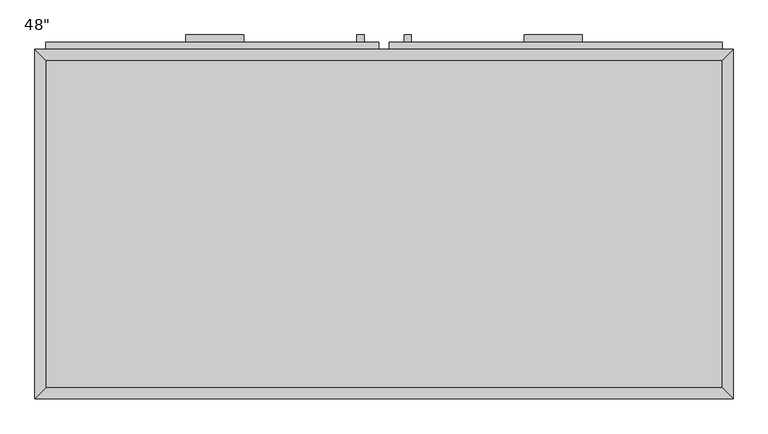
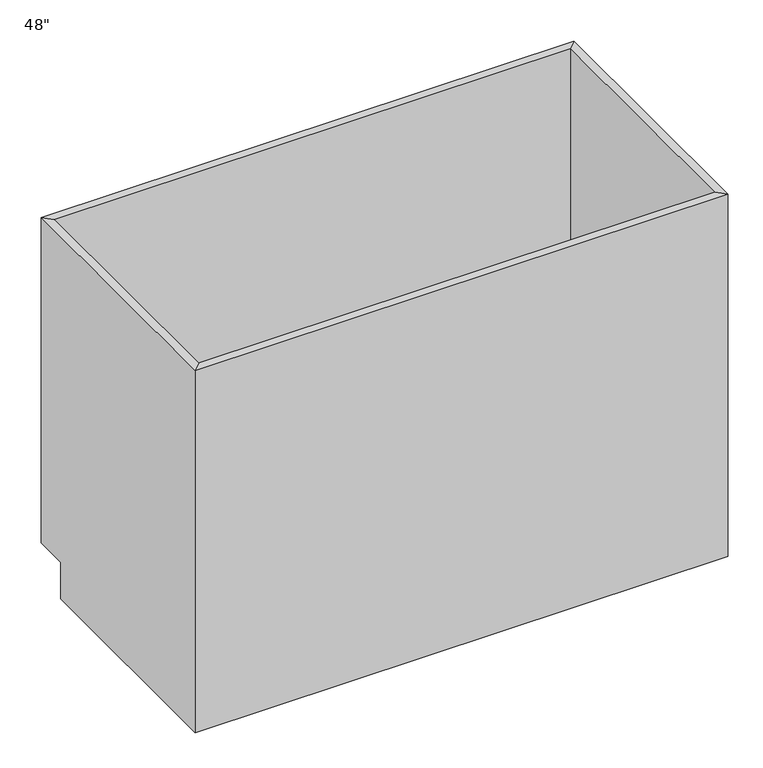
"""IFC4 building model written with IfcOpenShell, lengths in millimetres: furniture geometry."""

from ifc_helpers import new_model, si_unit, frame, origin, place, context, project, spatial, polyline, outline, extrude, faceted_brep, source, transform, mapped, element, save


def furniture_3b04147a(model_context):
    return source(origin(), model_context, "Body", "SolidModel", [
        faceted_brep([(609.2877049, 590.55, 876.3), (-571.8122951, 590.55, 876.3), (-571.8122951, 590.55, 88.9), (609.2877049, 590.55, 88.9), (628.3377049, 609.6, 876.3), (-590.8622951, 609.6, 876.3), (628.3377049, 609.6, 88.9), (-590.8622951, 609.6, 88.9), (-571.8122951, 19.05, 876.3), (-571.8122951, 19.05, 88.9), (-571.8122951, 533.4, 88.9), (-590.8622951, 0.0, 876.3), (-590.8622951, 533.4, 88.9), (-590.8622951, 533.4, 0.0), (-590.8622951, 0.0, 0.0), (609.2877049, 19.05, 876.3), (609.2877049, 19.05, 88.9), (628.3377049, 0.0, 876.3), (628.3377049, 0.0, 0.0), (609.2877049, 533.4, 88.9), (628.3377049, 533.4, 0.0), (628.3377049, 533.4, 88.9)], [[[0, 1, 2, 3]], [[0, 4, 5, 1]], [[4, 6, 7, 5]], [[2, 7, 6, 3]], [[1, 8, 9, 10, 2]], [[5, 11, 8, 1]], [[7, 12, 13, 14, 11, 5]], [[2, 10, 12, 7]], [[8, 15, 16, 9]], [[11, 17, 15, 8]], [[14, 18, 17, 11]], [[3, 19, 16, 15, 0]], [[0, 15, 17, 4]], [[4, 17, 18, 20, 21, 6]], [[6, 21, 19, 3]], [[10, 9, 16, 19]], [[18, 14, 13, 20]], [[13, 12, 10, 19, 21, 20]]]),
        extrude(outline(polyline([(-225.7372951, 635.0), (-225.7372951, 622.3), (-327.3372951, 622.3), (-327.3372951, 635.0), (-225.7372951, 635.0)])), frame((0.0, 0.0, 819.15), z_axis=(0.0, 0.0, 1.0), x_axis=(1.0, 0.0, 0.0)), (0.0, 0.0, 1.0), 12.7),
        extrude(outline(polyline([(364.8127049, 635.0), (364.8127049, 622.3), (263.2127049, 622.3), (263.2127049, 635.0), (364.8127049, 635.0)])), frame((0.0, 0.0, 819.15), z_axis=(0.0, 0.0, 1.0), x_axis=(1.0, 0.0, 0.0)), (0.0, 0.0, 1.0), 12.7),
        extrude(outline(polyline([(-16.1872951, 635.0), (-16.1872951, 622.3), (-28.8872951, 622.3), (-28.8872951, 635.0), (-16.1872951, 635.0)])), frame((0.0, 0.0, 596.9), z_axis=(0.0, 0.0, 1.0), x_axis=(1.0, 0.0, 0.0)), (0.0, 0.0, 1.0), 101.6),
        extrude(outline(polyline([(66.3627049, 635.0), (66.3627049, 622.3), (53.6627049, 622.3), (53.6627049, 635.0), (66.3627049, 635.0)])), frame((0.0, 0.0, 596.9), z_axis=(0.0, 0.0, 1.0), x_axis=(1.0, 0.0, 0.0)), (0.0, 0.0, 1.0), 101.6),
        extrude(outline(polyline([(609.2877049, 19.05), (-571.8122951, 19.05), (-571.8122951, 590.55), (609.2877049, 590.55), (609.2877049, 19.05)])), frame((0.0, 0.0, 88.9), z_axis=(0.0, 0.0, 1.0), x_axis=(1.0, 0.0, 0.0)), (0.0, 0.0, 1.0), 19.05),
        extrude(outline(polyline([(9.2127049, 622.3), (9.2127049, 609.6), (-571.8122951, 609.6), (-571.8122951, 622.3), (9.2127049, 622.3)])), frame((0.0, 0.0, 755.65), z_axis=(0.0, 0.0, 1.0), x_axis=(1.0, 0.0, 0.0)), (0.0, 0.0, 1.0), 101.6),
        extrude(outline(polyline([(609.2877049, 622.3), (609.2877049, 609.6), (28.2627049, 609.6), (28.2627049, 622.3), (609.2877049, 622.3)])), frame((0.0, 0.0, 755.65), z_axis=(0.0, 0.0, 1.0), x_axis=(1.0, 0.0, 0.0)), (0.0, 0.0, 1.0), 101.6),
        extrude(outline(polyline([(9.2127049, 622.3), (9.2127049, 609.6), (-571.8122951, 609.6), (-571.8122951, 622.3), (9.2127049, 622.3)])), frame((0.0, 0.0, 107.95), z_axis=(0.0, 0.0, 1.0), x_axis=(1.0, 0.0, 0.0)), (0.0, 0.0, 1.0), 628.65),
        extrude(outline(polyline([(609.2877049, 622.3), (609.2877049, 609.6), (28.2627049, 609.6), (28.2627049, 622.3), (609.2877049, 622.3)])), frame((0.0, 0.0, 107.95), z_axis=(0.0, 0.0, 1.0), x_axis=(1.0, 0.0, 0.0)), (0.0, 0.0, 1.0), 628.65),
    ])


if __name__ == "__main__":
    model = new_model("IFC4")
    model_context = context("Model", 3, world=origin())
    ifc_project = project(units=[si_unit("LENGTHUNIT", "METRE", prefix="MILLI")], contexts=[model_context])
    site = spatial("IfcSite", under=ifc_project)
    building = spatial("IfcBuilding", under=site)
    placement = place(None, origin())
    furniture_shape = furniture_3b04147a(model_context)
    element("IfcFurniture", 1, ObjectType="Base Cabinet-Double Door & 2 Drawer : 48\"", at=placement, inside=building, context=model_context, shape_type="MappedRepresentation", body=[
        mapped(furniture_shape, transform((0.0, 0.0, 0.0), x_axis=(1.0, 0.0, 0.0), y_axis=(0.0, 1.0, 0.0), z_axis=(0.0, 0.0, 1.0))),
    ])
    save(model, "model.ifc")
